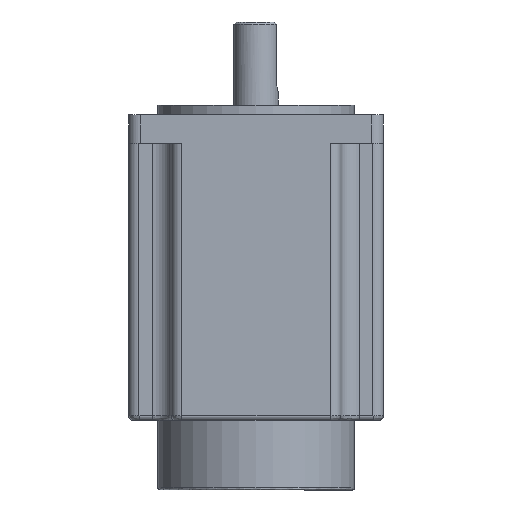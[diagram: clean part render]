
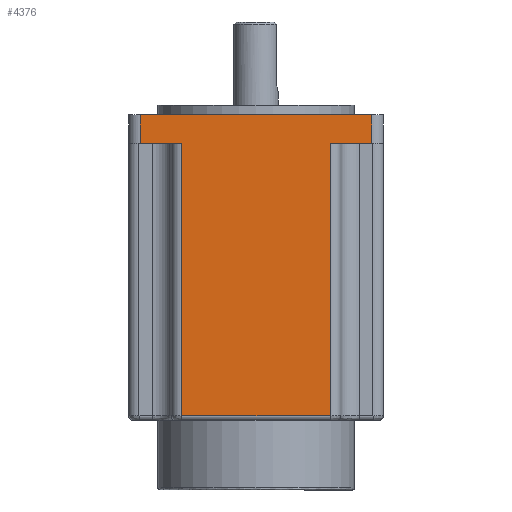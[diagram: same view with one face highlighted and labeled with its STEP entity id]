
A CAD part, front view. The second image highlights one B-rep face of the part: STEP entity #4376.
In plain terms, the highlighted planar face has unit normal (0, -1, 0).
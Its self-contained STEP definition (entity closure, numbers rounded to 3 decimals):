
#48 = VERTEX_POINT ( 'NONE', #2860 ) ;
#111 = DIRECTION ( 'NONE',  ( -1., 0., 0. ) ) ;
#152 = DIRECTION ( 'NONE',  ( 0., 0., 1. ) ) ;
#153 = CARTESIAN_POINT ( 'NONE',  ( -50., -55., -69. ) ) ;
#394 = DIRECTION ( 'NONE',  ( -1., 0., 0. ) ) ;
#465 = CARTESIAN_POINT ( 'NONE',  ( -50., -55., -16.5 ) ) ;
#541 = EDGE_CURVE ( 'NONE', #4890, #946, #5246, .T. ) ;
#670 = CARTESIAN_POINT ( 'NONE',  ( 32.05, -55., -134. ) ) ;
#709 = CARTESIAN_POINT ( 'NONE',  ( 0., -55., -4. ) ) ;
#723 = VERTEX_POINT ( 'NONE', #4375 ) ;
#790 = ORIENTED_EDGE ( 'NONE', *, *, #5781, .F. ) ;
#796 = ORIENTED_EDGE ( 'NONE', *, *, #1130, .F. ) ;
#807 = VECTOR ( 'NONE', #3270, 1000. ) ;
#839 = CARTESIAN_POINT ( 'NONE',  ( -32.05, -55., -16.5 ) ) ;
#946 = VERTEX_POINT ( 'NONE', #465 ) ;
#1027 = VECTOR ( 'NONE', #111, 1000. ) ;
#1130 = EDGE_CURVE ( 'NONE', #946, #1390, #2005, .T. ) ;
#1206 = DIRECTION ( 'NONE',  ( 1., 0., 0. ) ) ;
#1261 = ORIENTED_EDGE ( 'NONE', *, *, #3464, .F. ) ;
#1297 = CARTESIAN_POINT ( 'NONE',  ( 0., -55., -134. ) ) ;
#1390 = VERTEX_POINT ( 'NONE', #5201 ) ;
#1425 = VECTOR ( 'NONE', #152, 1000. ) ;
#1691 = ORIENTED_EDGE ( 'NONE', *, *, #3041, .F. ) ;
#1873 = CARTESIAN_POINT ( 'NONE',  ( 50., -55., -10.25 ) ) ;
#1949 = CARTESIAN_POINT ( 'NONE',  ( -32.05, -55., -69. ) ) ;
#1958 = EDGE_CURVE ( 'NONE', #48, #4991, #2723, .T. ) ;
#2005 = LINE ( 'NONE', #153, #807 ) ;
#2022 = LINE ( 'NONE', #709, #2309 ) ;
#2057 = VECTOR ( 'NONE', #3078, 1000. ) ;
#2131 = LINE ( 'NONE', #5020, #4354 ) ;
#2281 = ORIENTED_EDGE ( 'NONE', *, *, #2589, .F. ) ;
#2309 = VECTOR ( 'NONE', #1206, 1000. ) ;
#2589 = EDGE_CURVE ( 'NONE', #3239, #4247, #4863, .T. ) ;
#2723 = LINE ( 'NONE', #1873, #2878 ) ;
#2788 = CARTESIAN_POINT ( 'NONE',  ( 32.05, -55., -16.5 ) ) ;
#2860 = CARTESIAN_POINT ( 'NONE',  ( 50., -55., -16.5 ) ) ;
#2878 = VECTOR ( 'NONE', #3710, 1000. ) ;
#3041 = EDGE_CURVE ( 'NONE', #4247, #723, #4212, .T. ) ;
#3061 = DIRECTION ( 'NONE',  ( 0., 0., 1. ) ) ;
#3078 = DIRECTION ( 'NONE',  ( -1., 0., 0. ) ) ;
#3084 = ORIENTED_EDGE ( 'NONE', *, *, #541, .F. ) ;
#3113 = EDGE_CURVE ( 'NONE', #48, #3239, #2131, .T. ) ;
#3215 = AXIS2_PLACEMENT_3D ( 'NONE', #3606, #4063, #3061 ) ;
#3239 = VERTEX_POINT ( 'NONE', #2788 ) ;
#3270 = DIRECTION ( 'NONE',  ( 0., 0., 1. ) ) ;
#3464 = EDGE_CURVE ( 'NONE', #723, #4890, #4008, .T. ) ;
#3606 = CARTESIAN_POINT ( 'NONE',  ( -50., -55., -134. ) ) ;
#3665 = CARTESIAN_POINT ( 'NONE',  ( 32.05, -55., -69. ) ) ;
#3710 = DIRECTION ( 'NONE',  ( 0., 0., 1. ) ) ;
#4008 = LINE ( 'NONE', #1949, #1425 ) ;
#4063 = DIRECTION ( 'NONE',  ( 0., 1., 0. ) ) ;
#4212 = LINE ( 'NONE', #1297, #2057 ) ;
#4247 = VERTEX_POINT ( 'NONE', #670 ) ;
#4265 = FACE_OUTER_BOUND ( 'NONE', #4688, .T. ) ;
#4354 = VECTOR ( 'NONE', #394, 1000. ) ;
#4375 = CARTESIAN_POINT ( 'NONE',  ( -32.05, -55., -134. ) ) ;
#4376 = ADVANCED_FACE ( 'NONE', ( #4265 ), #5359, .F. ) ;
#4411 = ORIENTED_EDGE ( 'NONE', *, *, #3113, .F. ) ;
#4575 = DIRECTION ( 'NONE',  ( 0., 0., -1. ) ) ;
#4688 = EDGE_LOOP ( 'NONE', ( #1691, #2281, #4411, #5847, #790, #796, #3084, #1261 ) ) ;
#4793 = VECTOR ( 'NONE', #4575, 1000. ) ;
#4863 = LINE ( 'NONE', #3665, #4793 ) ;
#4890 = VERTEX_POINT ( 'NONE', #839 ) ;
#4991 = VERTEX_POINT ( 'NONE', #5513 ) ;
#5020 = CARTESIAN_POINT ( 'NONE',  ( 0., -55., -16.5 ) ) ;
#5031 = CARTESIAN_POINT ( 'NONE',  ( 0., -55., -16.5 ) ) ;
#5201 = CARTESIAN_POINT ( 'NONE',  ( -50., -55., -4. ) ) ;
#5246 = LINE ( 'NONE', #5031, #1027 ) ;
#5359 = PLANE ( 'NONE',  #3215 ) ;
#5513 = CARTESIAN_POINT ( 'NONE',  ( 50., -55., -4. ) ) ;
#5781 = EDGE_CURVE ( 'NONE', #1390, #4991, #2022, .T. ) ;
#5847 = ORIENTED_EDGE ( 'NONE', *, *, #1958, .T. ) ;
